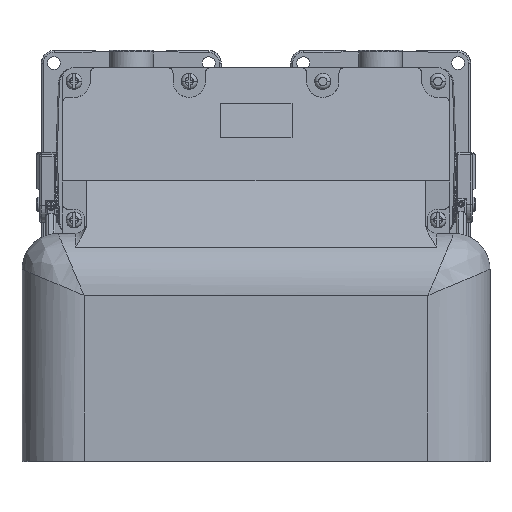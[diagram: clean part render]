
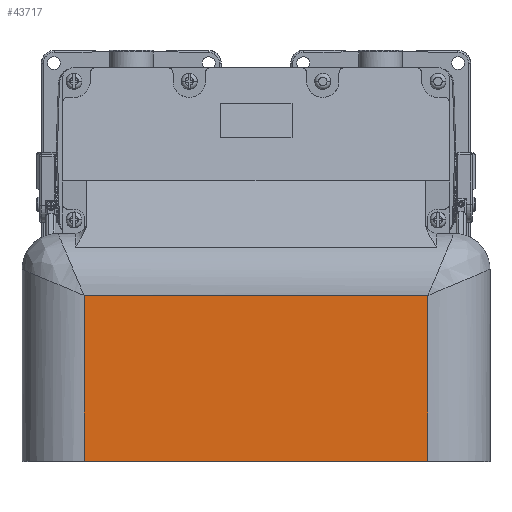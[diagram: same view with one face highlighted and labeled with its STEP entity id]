
A CAD part, top view. The second image highlights one B-rep face of the part: STEP entity #43717.
In plain terms, the highlighted planar face has unit normal (0, 0, 1).
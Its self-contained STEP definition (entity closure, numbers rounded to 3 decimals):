
#2421=CARTESIAN_POINT('',(225.953,92.1,
-0.453));
#3141=DIRECTION('',(1.,0.,0.));
#3142=VECTOR('',#3141,191.);
#3143=CARTESIAN_POINT('',(34.953,92.1,
-0.453));
#3144=LINE('',#3143,#3142);
#3145=DIRECTION('',(0.,-1.,0.));
#3146=VECTOR('',#3145,92.1);
#3147=CARTESIAN_POINT('',(225.953,92.1,
-0.453));
#3148=LINE('',#3147,#3146);
#3149=DIRECTION('',(-1.,0.,0.));
#3150=VECTOR('',#3149,191.);
#3151=CARTESIAN_POINT('',(225.953,0.,
-0.453));
#3152=LINE('',#3151,#3150);
#3153=DIRECTION('',(0.,1.,0.));
#3154=VECTOR('',#3153,92.1);
#3155=CARTESIAN_POINT('',(34.953,0.,
-0.453));
#3156=LINE('',#3155,#3154);
#34488=CARTESIAN_POINT('',(34.953,0.,
-0.453));
#34489=VERTEX_POINT('',#34488);
#34490=CARTESIAN_POINT('',(225.953,0.,
-0.453));
#34491=VERTEX_POINT('',#34490);
#34504=VERTEX_POINT('',#2421);
#34516=CARTESIAN_POINT('',(34.953,92.1,
-0.453));
#34517=VERTEX_POINT('',#34516);
#43706=CARTESIAN_POINT('',(130.453,46.05,-0.453));
#43707=DIRECTION('',(0.,0.,1.));
#43708=DIRECTION('',(1.,0.,0.));
#43709=AXIS2_PLACEMENT_3D('',#43706,#43707,#43708);
#43710=PLANE('',#43709);
#43711=ORIENTED_EDGE('',*,*,#42838,.T.);
#43712=ORIENTED_EDGE('',*,*,#42700,.T.);
#43713=ORIENTED_EDGE('',*,*,#42621,.T.);
#43714=ORIENTED_EDGE('',*,*,#43061,.T.);
#43715=EDGE_LOOP('',(#43711,#43712,#43713,#43714));
#43716=FACE_OUTER_BOUND('',#43715,.F.);
#43717=ADVANCED_FACE('',(#43716),#43710,.T.);
#42621=EDGE_CURVE('',#34491,#34489,#3152,.T.);
#42700=EDGE_CURVE('',#34504,#34491,#3148,.T.);
#42838=EDGE_CURVE('',#34517,#34504,#3144,.T.);
#43061=EDGE_CURVE('',#34489,#34517,#3156,.T.);
